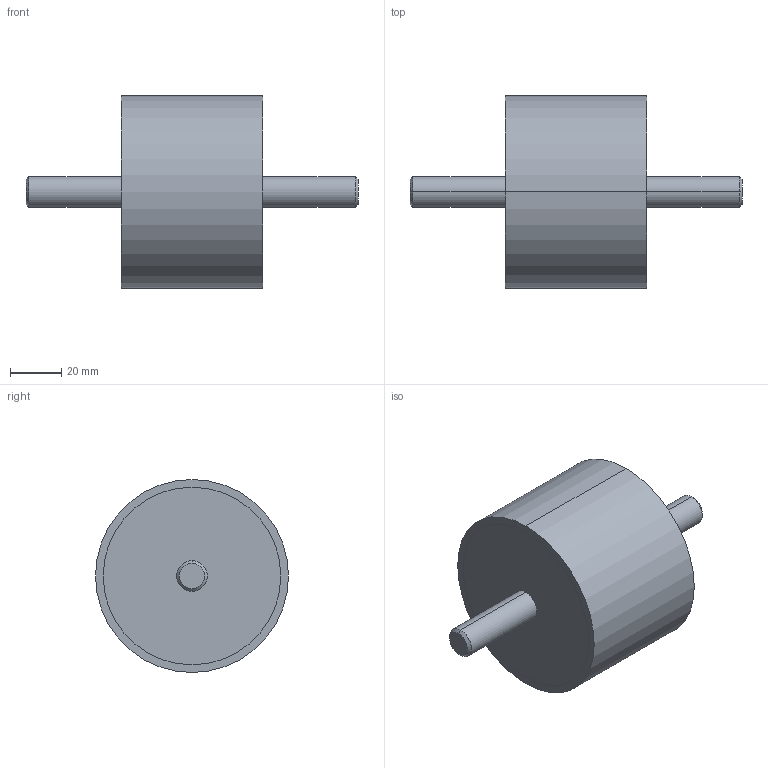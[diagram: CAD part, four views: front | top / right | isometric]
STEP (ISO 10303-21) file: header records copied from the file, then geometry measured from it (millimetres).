
FILE_DESCRIPTION (( 'STEP AP214' ), '1' );
FILE_NAME ('351-75-55-M12-SS-40.step', '2025-07-23T10:02:54', ( '' ), ( '' ), 'SwSTEP 2.0', 'SolidWorks 2022', '' );
FILE_SCHEMA (( 'AUTOMOTIVE_DESIGN' ));
Length unit declared in the file: millimetre
Products named in the file (1): 351-75-55-M12-SS-40
Bounding box: 129 x 75 x 75 mm (x, y, z)
Volume: 251236.4 mm3; surface area: 24537.9 mm2
Topology: 1 solids, 1 shells, 20 faces, 38 edges, 24 vertices
Faces by surface type: cylinder 10, plane 6, cone 4
Entity records: 636 total; most frequent: DIRECTION 104, CARTESIAN_POINT 83, ORIENTED_EDGE 76, AXIS2_PLACEMENT_3D 45, EDGE_CURVE 38, EDGE_LOOP 24, VERTEX_POINT 24, CIRCLE 24
